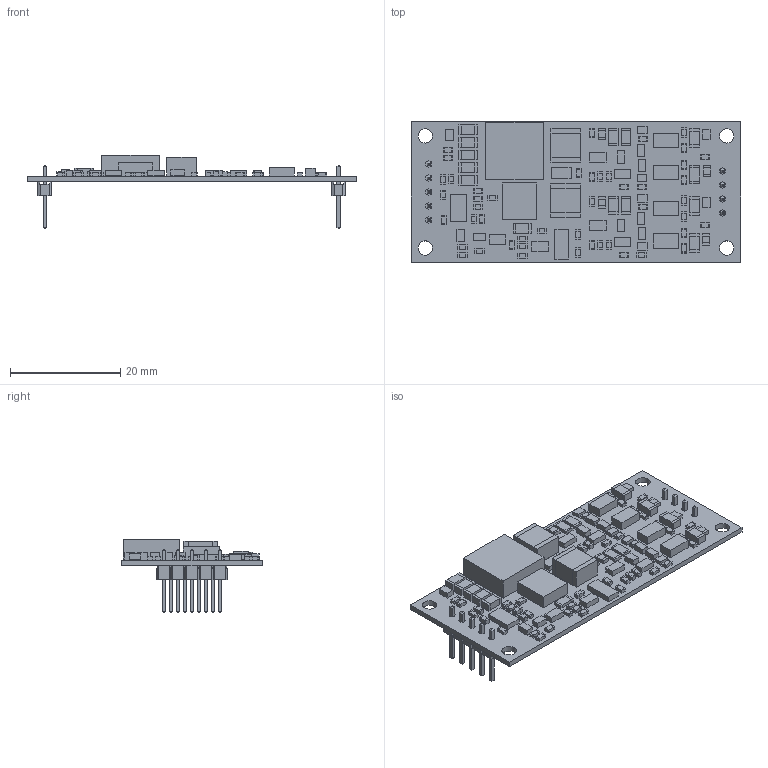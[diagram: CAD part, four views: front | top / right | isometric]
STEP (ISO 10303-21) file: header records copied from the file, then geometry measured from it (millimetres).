
FILE_DESCRIPTION(('Open CASCADE Model'),'2;1');
FILE_NAME('Open CASCADE Shape Model','2026-04-29T09:06:44',('Author'),( 'Open CASCADE'),'Open CASCADE STEP processor 7.5','Open CASCADE 7.5' ,'Unknown');
FILE_SCHEMA(('AUTOMOTIVE_DESIGN { 1 0 10303 214 1 1 1 1 }'));
Length unit declared in the file: millimetre
Products named in the file (178): PCB; Board; Open CASCADE STEP translator 7.5 1.1.1; P_; 61300411121; 6130xx11121_PIN; P_1; 61300511121; U5; 8806760240; Extruded; R22; 8702429200; 8702428672; D6; 8702836160; R13; 8702840720; 8702841008; R18; R24; R19; R25; 8702839664; 8702840192; R26; R20; R17; R16; R15; C17; 8702427136; 8702426896; C21; 8702430064; 8702430304; C19; 8702416528; 8702415952; C20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
Assembly tree (380 placements, depth 4):
  PCB
    Board
      Open CASCADE STEP translator 7.5 1.1.1
    P_
      61300411121
        6130xx11121_PIN  x4
        61300411121
    P_1
      61300511121
        6130xx11121_PIN  x5
        61300511121
    U5
      8806760240
        Extruded
    R22
      8702429200  x2
        Extruded
      8702428672
        Extruded
    D6
      8702836160
        Extruded
    R13
      8702840720  x2
        Extruded
      8702841008
        Extruded
    R18
      8702429200  x2
        Extruded
      8702428672
        Extruded
    R24
      8702429200  x2
        Extruded
      8702428672
        Extruded
    R19
      8702429200  x2
        Extruded
      8702428672
        Extruded
    R25
      8702839664
        Extruded
      8702840192  x2
        Extruded
    R26
      8702840720  x2
        Extruded
      8702841008
        Extruded
    R20
      8702840720  x2
        Extruded
      8702841008
        Extruded
    R17
      8702840720  x2
        Extruded
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Bounding box: 59.69 x 25.4 x 13.36 mm (x, y, z)
Volume: 2689.5 mm3; surface area: 6251.7 mm2
Topology: 243 solids, 243 shells, 1800 faces, 3870 edges, 2556 vertices
Faces by surface type: plane 1796, cylinder 4
Full cylindrical faces by diameter (mm): 2.6 x4
Entity records: 21720 total; most frequent: DIRECTION 3144, CARTESIAN_POINT 3105, ORIENTED_EDGE 2644, EDGE_CURVE 1322, LINE 1314, VECTOR 1314, AXIS2_PLACEMENT_3D 915, VERTEX_POINT 876
